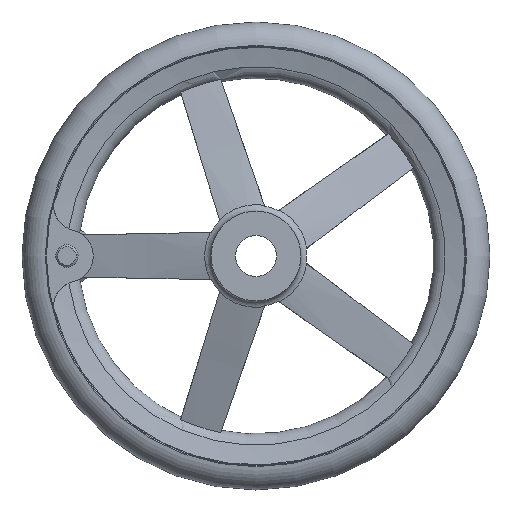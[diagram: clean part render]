
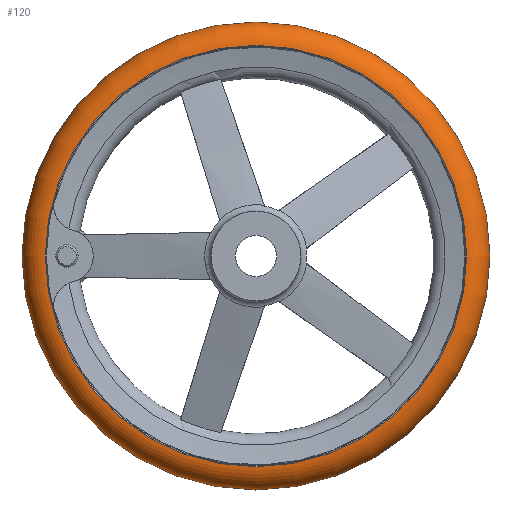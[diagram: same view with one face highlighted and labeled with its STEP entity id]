
A CAD part, left-side view. The second image highlights one B-rep face of the part: STEP entity #120.
In plain terms, the highlighted toroidal (fillet/blend) face has major radius 111.988 mm and minor radius 13.012 mm.
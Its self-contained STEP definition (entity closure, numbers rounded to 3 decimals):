
#120 = ADVANCED_FACE( '', ( #246, #247, #248 ), #249, .T. );
#246 = FACE_BOUND( '', #421, .T. );
#247 = FACE_OUTER_BOUND( '', #422, .T. );
#248 = FACE_OUTER_BOUND( '', #423, .T. );
#249 = TOROIDAL_SURFACE( '', #424, 111.988, 13.012 );
#421 = VERTEX_LOOP( '', #815 );
#422 = EDGE_LOOP( '', ( #816 ) );
#423 = EDGE_LOOP( '', ( #817 ) );
#424 = AXIS2_PLACEMENT_3D( '', #818, #819, #820 );
#815 = VERTEX_POINT( '', #1024 );
#816 = ORIENTED_EDGE( '', *, *, #1025, .T. );
#817 = ORIENTED_EDGE( '', *, *, #992, .F. );
#818 = CARTESIAN_POINT( '', ( 37., 0., 0. ) );
#819 = DIRECTION( '', ( 1., 0., 0. ) );
#820 = DIRECTION( '', ( 0., 1., 0. ) );
#992 = EDGE_CURVE( '', #1212, #1212, #1213, .T. );
#1024 = CARTESIAN_POINT( '', ( 37., 125., 0. ) );
#1025 = EDGE_CURVE( '', #1258, #1258, #1259, .T. );
#1212 = VERTEX_POINT( '', #1973 );
#1213 = CIRCLE( '', #1974, 112.542 );
#1258 = VERTEX_POINT( '', #2109 );
#1259 = CIRCLE( '', #2110, 112.542 );
#1973 = CARTESIAN_POINT( '', ( 50., 112.542, 0. ) );
#1974 = AXIS2_PLACEMENT_3D( '', #2251, #2252, #2253 );
#2109 = CARTESIAN_POINT( '', ( 24., 112.542, 0. ) );
#2110 = AXIS2_PLACEMENT_3D( '', #2298, #2299, #2300 );
#2251 = CARTESIAN_POINT( '', ( 50., 0., 0. ) );
#2252 = DIRECTION( '', ( 1., 0., 0. ) );
#2253 = DIRECTION( '', ( 0., 1., 0. ) );
#2298 = CARTESIAN_POINT( '', ( 24., 0., 0. ) );
#2299 = DIRECTION( '', ( 1., 0., 0. ) );
#2300 = DIRECTION( '', ( 0., 1., 0. ) );
